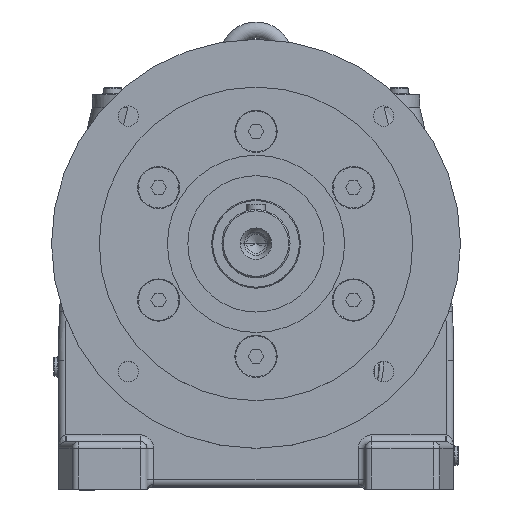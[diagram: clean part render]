
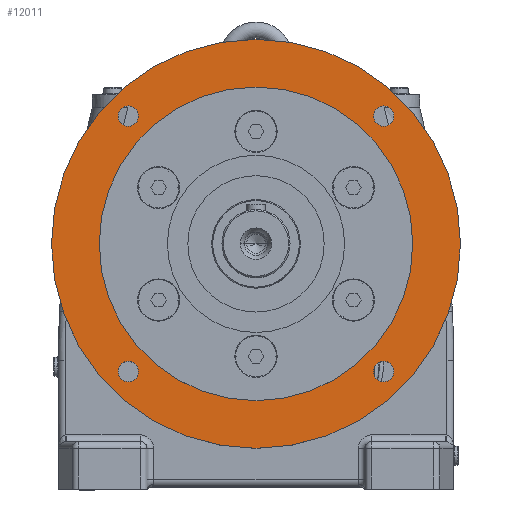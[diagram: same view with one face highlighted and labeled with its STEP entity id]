
A CAD part, top view. The second image highlights one B-rep face of the part: STEP entity #12011.
In plain terms, the highlighted planar face has unit normal (0, 0, 1).
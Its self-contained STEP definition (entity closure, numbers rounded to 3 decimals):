
#11774 = VERTEX_POINT ( 'NONE', #36753 ) ;
#11807 = EDGE_CURVE ( 'NONE', #11774, #11808, #36876, .T. ) ;
#11808 = VERTEX_POINT ( 'NONE', #36863 ) ;
#11818 = VERTEX_POINT ( 'NONE', #36981 ) ;
#11819 = VERTEX_POINT ( 'NONE', #36979 ) ;
#11828 = VERTEX_POINT ( 'NONE', #36935 ) ;
#11833 = EDGE_CURVE ( 'NONE', #11818, #11819, #36918, .T. ) ;
#11838 = EDGE_CURVE ( 'NONE', #11848, #11839, #37032, .T. ) ;
#11839 = VERTEX_POINT ( 'NONE', #37023 ) ;
#11848 = VERTEX_POINT ( 'NONE', #37005 ) ;
#11863 = EDGE_CURVE ( 'NONE', #11867, #11864, #37055, .T. ) ;
#11864 = VERTEX_POINT ( 'NONE', #37183 ) ;
#11867 = VERTEX_POINT ( 'NONE', #37180 ) ;
#11869 = VERTEX_POINT ( 'NONE', #37171 ) ;
#11872 = VERTEX_POINT ( 'NONE', #37150 ) ;
#11874 = EDGE_CURVE ( 'NONE', #11872, #11869, #37141, .T. ) ;
#11875 = VERTEX_POINT ( 'NONE', #37133 ) ;
#11882 = EDGE_CURVE ( 'NONE', #11828, #11875, #37250, .T. ) ;
#11986 = ORIENTED_EDGE ( 'NONE', *, *, #11874, .T. ) ;
#11990 = EDGE_CURVE ( 'NONE', #11839, #11848, #37640, .T. ) ;
#11992 = EDGE_CURVE ( 'NONE', #11869, #11872, #37757, .T. ) ;
#11993 = EDGE_LOOP ( 'NONE', ( #12032, #12037 ) ) ;
#11994 = ORIENTED_EDGE ( 'NONE', *, *, #11992, .T. ) ;
#11997 = ORIENTED_EDGE ( 'NONE', *, *, #11882, .F. ) ;
#12000 = ORIENTED_EDGE ( 'NONE', *, *, #12034, .F. ) ;
#12005 = ORIENTED_EDGE ( 'NONE', *, *, #11807, .F. ) ;
#12006 = EDGE_LOOP ( 'NONE', ( #12007, #12042 ) ) ;
#12007 = ORIENTED_EDGE ( 'NONE', *, *, #11990, .F. ) ;
#12011 = ADVANCED_FACE ( 'NONE', ( #37805, #37803, #37802, #37801, #37800, #37798 ), #37888, .F. ) ;
#12012 = EDGE_LOOP ( 'NONE', ( #12013, #12005 ) ) ;
#12013 = ORIENTED_EDGE ( 'NONE', *, *, #12014, .F. ) ;
#12014 = EDGE_CURVE ( 'NONE', #11808, #11774, #37873, .T. ) ;
#12032 = ORIENTED_EDGE ( 'NONE', *, *, #12033, .F. ) ;
#12033 = EDGE_CURVE ( 'NONE', #11819, #11818, #37942, .T. ) ;
#12034 = EDGE_CURVE ( 'NONE', #11864, #11867, #37931, .T. ) ;
#12035 = EDGE_LOOP ( 'NONE', ( #11986, #11994 ) ) ;
#12037 = ORIENTED_EDGE ( 'NONE', *, *, #11833, .F. ) ;
#12042 = ORIENTED_EDGE ( 'NONE', *, *, #11838, .F. ) ;
#12046 = EDGE_CURVE ( 'NONE', #11875, #11828, #37908, .T. ) ;
#12047 = EDGE_LOOP ( 'NONE', ( #12048, #11997 ) ) ;
#12048 = ORIENTED_EDGE ( 'NONE', *, *, #12046, .F. ) ;
#12053 = EDGE_LOOP ( 'NONE', ( #12054, #12000 ) ) ;
#12054 = ORIENTED_EDGE ( 'NONE', *, *, #11863, .F. ) ;
#34511 = DIRECTION ( 'NONE',  ( 0., 0., 1. ) ) ;
#35152 = DIRECTION ( 'NONE',  ( 1., 0., 0. ) ) ;
#36753 = CARTESIAN_POINT ( 'NONE',  ( 86.192, 93.692, -5. ) ) ;
#36863 = CARTESIAN_POINT ( 'NONE',  ( 101.192, 93.692, -5. ) ) ;
#36866 = DIRECTION ( 'NONE',  ( 1., 0., 0. ) ) ;
#36868 = DIRECTION ( 'NONE',  ( 0., 0., 1. ) ) ;
#36870 = CARTESIAN_POINT ( 'NONE',  ( 93.692, 93.692, -5. ) ) ;
#36873 = AXIS2_PLACEMENT_3D ( 'NONE', #36870, #36868, #36866 ) ;
#36876 = CIRCLE ( 'NONE', #36873, 7.5 ) ;
#36916 = CARTESIAN_POINT ( 'NONE',  ( -93.692, -93.692, -5. ) ) ;
#36917 = AXIS2_PLACEMENT_3D ( 'NONE', #36916, #34511, #35152 ) ;
#36918 = CIRCLE ( 'NONE', #36917, 7.5 ) ;
#36935 = CARTESIAN_POINT ( 'NONE',  ( 86.192, -93.692, -5. ) ) ;
#36979 = CARTESIAN_POINT ( 'NONE',  ( -86.192, -93.692, -5. ) ) ;
#36981 = CARTESIAN_POINT ( 'NONE',  ( -101.192, -93.692, -5. ) ) ;
#37005 = CARTESIAN_POINT ( 'NONE',  ( -101.192, 93.692, -5. ) ) ;
#37023 = CARTESIAN_POINT ( 'NONE',  ( -86.192, 93.692, -5. ) ) ;
#37026 = DIRECTION ( 'NONE',  ( 1., 0., 0. ) ) ;
#37028 = DIRECTION ( 'NONE',  ( 0., 0., 1. ) ) ;
#37029 = CARTESIAN_POINT ( 'NONE',  ( -93.692, 93.692, -5. ) ) ;
#37031 = AXIS2_PLACEMENT_3D ( 'NONE', #37029, #37028, #37026 ) ;
#37032 = CIRCLE ( 'NONE', #37031, 7.5 ) ;
#37049 = DIRECTION ( 'NONE',  ( 1., 0., 0. ) ) ;
#37052 = DIRECTION ( 'NONE',  ( 0., 0., 1. ) ) ;
#37053 = CARTESIAN_POINT ( 'NONE',  ( 0., 0., -5. ) ) ;
#37054 = AXIS2_PLACEMENT_3D ( 'NONE', #37053, #37052, #37049 ) ;
#37055 = CIRCLE ( 'NONE', #37054, 115. ) ;
#37133 = CARTESIAN_POINT ( 'NONE',  ( 101.192, -93.692, -5. ) ) ;
#37135 = DIRECTION ( 'NONE',  ( 1., 0., 0. ) ) ;
#37137 = DIRECTION ( 'NONE',  ( 0., 0., 1. ) ) ;
#37139 = CARTESIAN_POINT ( 'NONE',  ( 0., 0., -5. ) ) ;
#37140 = AXIS2_PLACEMENT_3D ( 'NONE', #37139, #37137, #37135 ) ;
#37141 = CIRCLE ( 'NONE', #37140, 150. ) ;
#37150 = CARTESIAN_POINT ( 'NONE',  ( 150., 0., -5. ) ) ;
#37171 = CARTESIAN_POINT ( 'NONE',  ( -150., 0., -5. ) ) ;
#37180 = CARTESIAN_POINT ( 'NONE',  ( 115., 0., -5. ) ) ;
#37183 = CARTESIAN_POINT ( 'NONE',  ( -115., 0., -5. ) ) ;
#37243 = DIRECTION ( 'NONE',  ( 1., 0., 0. ) ) ;
#37245 = DIRECTION ( 'NONE',  ( 0., 0., 1. ) ) ;
#37247 = CARTESIAN_POINT ( 'NONE',  ( 93.692, -93.692, -5. ) ) ;
#37249 = AXIS2_PLACEMENT_3D ( 'NONE', #37247, #37245, #37243 ) ;
#37250 = CIRCLE ( 'NONE', #37249, 7.5 ) ;
#37631 = DIRECTION ( 'NONE',  ( 1., 0., 0. ) ) ;
#37634 = DIRECTION ( 'NONE',  ( 0., 0., 1. ) ) ;
#37636 = CARTESIAN_POINT ( 'NONE',  ( -93.692, 93.692, -5. ) ) ;
#37638 = AXIS2_PLACEMENT_3D ( 'NONE', #37636, #37634, #37631 ) ;
#37640 = CIRCLE ( 'NONE', #37638, 7.5 ) ;
#37750 = DIRECTION ( 'NONE',  ( 1., 0., 0. ) ) ;
#37751 = DIRECTION ( 'NONE',  ( 0., 0., 1. ) ) ;
#37753 = CARTESIAN_POINT ( 'NONE',  ( 0., 0., -5. ) ) ;
#37755 = AXIS2_PLACEMENT_3D ( 'NONE', #37753, #37751, #37750 ) ;
#37757 = CIRCLE ( 'NONE', #37755, 150. ) ;
#37798 = FACE_BOUND ( 'NONE', #11993, .T. ) ;
#37800 = FACE_OUTER_BOUND ( 'NONE', #12035, .T. ) ;
#37801 = FACE_BOUND ( 'NONE', #12053, .T. ) ;
#37802 = FACE_BOUND ( 'NONE', #12047, .T. ) ;
#37803 = FACE_BOUND ( 'NONE', #12006, .T. ) ;
#37805 = FACE_BOUND ( 'NONE', #12012, .T. ) ;
#37868 = DIRECTION ( 'NONE',  ( 1., 0., 0. ) ) ;
#37869 = DIRECTION ( 'NONE',  ( 0., 0., 1. ) ) ;
#37870 = CARTESIAN_POINT ( 'NONE',  ( 93.692, 93.692, -5. ) ) ;
#37871 = AXIS2_PLACEMENT_3D ( 'NONE', #37870, #37869, #37868 ) ;
#37873 = CIRCLE ( 'NONE', #37871, 7.5 ) ;
#37879 = DIRECTION ( 'NONE',  ( -1., 0., 0. ) ) ;
#37882 = DIRECTION ( 'NONE',  ( 0., 0., -1. ) ) ;
#37884 = CARTESIAN_POINT ( 'NONE',  ( 0., 115., -5. ) ) ;
#37886 = AXIS2_PLACEMENT_3D ( 'NONE', #37884, #37882, #37879 ) ;
#37888 = PLANE ( 'NONE',  #37886 ) ;
#37903 = DIRECTION ( 'NONE',  ( 1., 0., 0. ) ) ;
#37904 = DIRECTION ( 'NONE',  ( 0., 0., 1. ) ) ;
#37905 = CARTESIAN_POINT ( 'NONE',  ( 93.692, -93.692, -5. ) ) ;
#37906 = AXIS2_PLACEMENT_3D ( 'NONE', #37905, #37904, #37903 ) ;
#37908 = CIRCLE ( 'NONE', #37906, 7.5 ) ;
#37927 = DIRECTION ( 'NONE',  ( 1., 0., 0. ) ) ;
#37928 = DIRECTION ( 'NONE',  ( 0., 0., 1. ) ) ;
#37929 = CARTESIAN_POINT ( 'NONE',  ( 0., 0., -5. ) ) ;
#37930 = AXIS2_PLACEMENT_3D ( 'NONE', #37929, #37928, #37927 ) ;
#37931 = CIRCLE ( 'NONE', #37930, 115. ) ;
#37935 = DIRECTION ( 'NONE',  ( 1., 0., 0. ) ) ;
#37937 = DIRECTION ( 'NONE',  ( 0., 0., 1. ) ) ;
#37939 = AXIS2_PLACEMENT_3D ( 'NONE', #37956, #37937, #37935 ) ;
#37942 = CIRCLE ( 'NONE', #37939, 7.5 ) ;
#37956 = CARTESIAN_POINT ( 'NONE',  ( -93.692, -93.692, -5. ) ) ;
